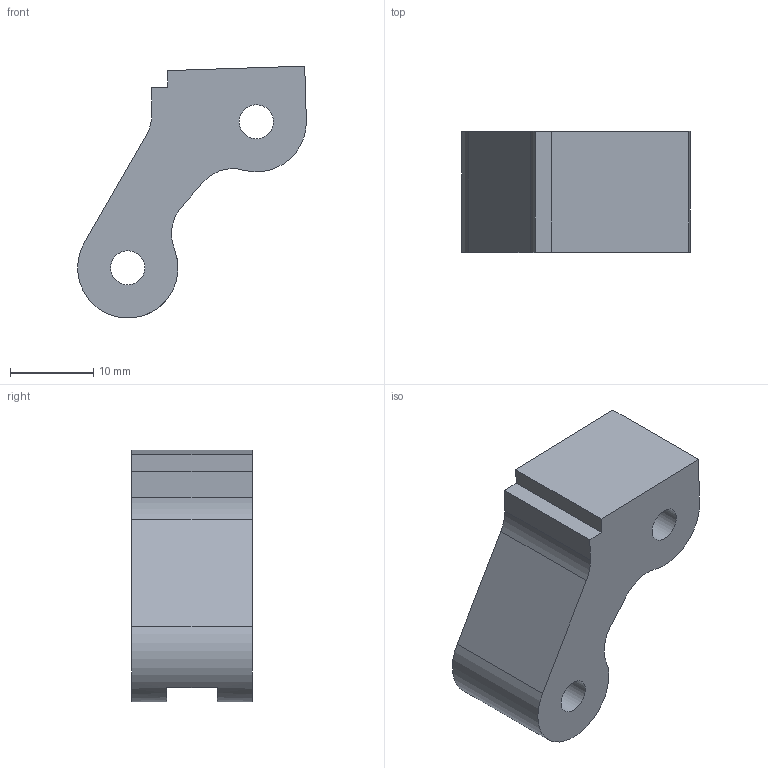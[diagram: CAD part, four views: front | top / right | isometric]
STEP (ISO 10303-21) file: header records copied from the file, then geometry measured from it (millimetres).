
FILE_DESCRIPTION (( 'STEP AP214' ), '1' );
FILE_NAME ('grav-finger-mount.step', '2026-11-14T03:54:11', ( '' ), ( '' ), 'SwSTEP 2.0', 'SolidWorks 2024', '' );
FILE_SCHEMA (( 'AUTOMOTIVE_DESIGN' ));
Length unit declared in the file: millimetre
Products named in the file (1): grav-finger-mount
Bounding box: 27.45 x 14.5 x 30.21 mm (x, y, z)
Volume: 4837.4 mm3; surface area: 2634.7 mm2
Topology: 1 solids, 1 shells, 21 faces, 57 edges, 38 vertices
Faces by surface type: plane 11, cylinder 10
Full cylindrical faces by diameter (mm): 4.1 x3
Entity records: 693 total; most frequent: DIRECTION 120, CARTESIAN_POINT 114, ORIENTED_EDGE 108, EDGE_CURVE 54, AXIS2_PLACEMENT_3D 44, VERTEX_POINT 38, LINE 32, VECTOR 32
